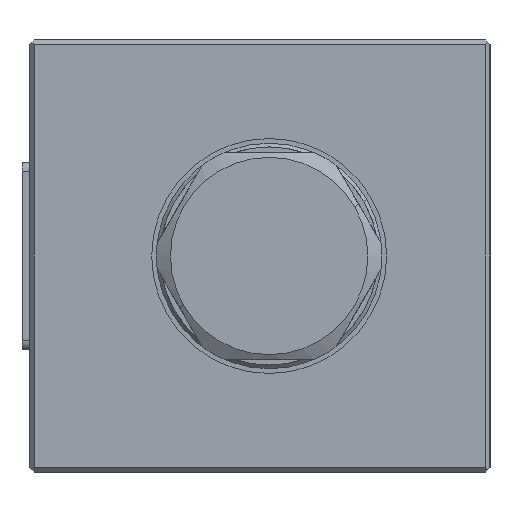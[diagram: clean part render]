
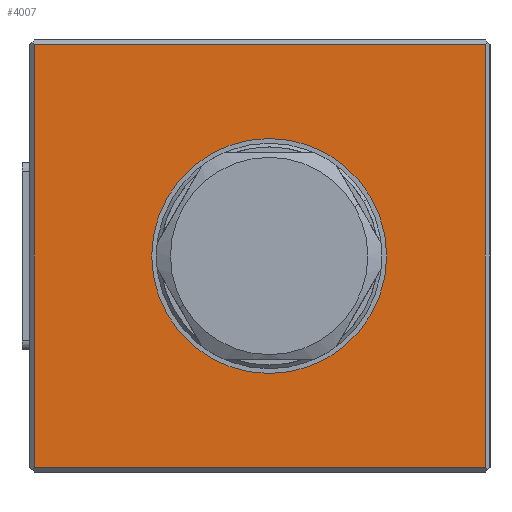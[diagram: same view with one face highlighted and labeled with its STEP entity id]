
A CAD part, left-side view. The second image highlights one B-rep face of the part: STEP entity #4007.
In plain terms, the highlighted planar face has unit normal (-1, 0, 0).
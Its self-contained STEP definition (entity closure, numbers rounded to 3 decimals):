
#978 = LINE ( 'NONE', #19081, #15391 ) ;
#2098 = ORIENTED_EDGE ( 'NONE', *, *, #12225, .T. ) ;
#3069 = CARTESIAN_POINT ( 'NONE',  ( -34., -23.5, -23. ) ) ;
#3128 = CARTESIAN_POINT ( 'NONE',  ( -34., 24.5, -22.5 ) ) ;
#3149 = AXIS2_PLACEMENT_3D ( 'NONE', #7065, #19625, #21395 ) ;
#3657 = CARTESIAN_POINT ( 'NONE',  ( -34., -13., 0. ) ) ;
#3754 = VECTOR ( 'NONE', #21679, 1000. ) ;
#4007 = ADVANCED_FACE ( 'NONE', ( #15624, #19728 ), #6938, .T. ) ;
#4060 = EDGE_CURVE ( 'NONE', #13784, #15410, #7277, .T. ) ;
#4265 = VECTOR ( 'NONE', #7617, 1000. ) ;
#4509 = CARTESIAN_POINT ( 'NONE',  ( -34., -23.5, 22.5 ) ) ;
#5309 = CARTESIAN_POINT ( 'NONE',  ( -34., -0.5, 0. ) ) ;
#5431 = DIRECTION ( 'NONE',  ( 0., 1., 0. ) ) ;
#5857 = CARTESIAN_POINT ( 'NONE',  ( -34., 25., -22.5 ) ) ;
#6275 = CARTESIAN_POINT ( 'NONE',  ( -34., -23.5, -22.5 ) ) ;
#6817 = DIRECTION ( 'NONE',  ( 0., -1., 0. ) ) ;
#6938 = PLANE ( 'NONE',  #18222 ) ;
#7065 = CARTESIAN_POINT ( 'NONE',  ( -34., -0.5, 0. ) ) ;
#7273 = CIRCLE ( 'NONE', #3149, 12.5 ) ;
#7277 = LINE ( 'NONE', #5857, #4265 ) ;
#7456 = CARTESIAN_POINT ( 'NONE',  ( -34., 12., 0. ) ) ;
#7617 = DIRECTION ( 'NONE',  ( 0., -1., 0. ) ) ;
#8844 = ORIENTED_EDGE ( 'NONE', *, *, #14790, .T. ) ;
#9336 = LINE ( 'NONE', #11304, #3754 ) ;
#11304 = CARTESIAN_POINT ( 'NONE',  ( -34., 25., 22.5 ) ) ;
#12041 = DIRECTION ( 'NONE',  ( 0., 0., -1. ) ) ;
#12090 = EDGE_CURVE ( 'NONE', #12893, #13953, #23019, .T. ) ;
#12225 = EDGE_CURVE ( 'NONE', #13953, #12893, #7273, .T. ) ;
#12299 = ORIENTED_EDGE ( 'NONE', *, *, #4060, .T. ) ;
#12553 = ORIENTED_EDGE ( 'NONE', *, *, #20943, .T. ) ;
#12692 = VERTEX_POINT ( 'NONE', #17072 ) ;
#12893 = VERTEX_POINT ( 'NONE', #3657 ) ;
#12898 = AXIS2_PLACEMENT_3D ( 'NONE', #5309, #21533, #5431 ) ;
#13784 = VERTEX_POINT ( 'NONE', #3128 ) ;
#13953 = VERTEX_POINT ( 'NONE', #7456 ) ;
#14442 = VECTOR ( 'NONE', #19035, 1000. ) ;
#14790 = EDGE_CURVE ( 'NONE', #15386, #12692, #9336, .T. ) ;
#15386 = VERTEX_POINT ( 'NONE', #4509 ) ;
#15391 = VECTOR ( 'NONE', #12041, 1000. ) ;
#15410 = VERTEX_POINT ( 'NONE', #6275 ) ;
#15624 = FACE_OUTER_BOUND ( 'NONE', #15984, .T. ) ;
#15984 = EDGE_LOOP ( 'NONE', ( #21961, #12299, #12553, #8844 ) ) ;
#17072 = CARTESIAN_POINT ( 'NONE',  ( -34., 24.5, 22.5 ) ) ;
#17497 = CARTESIAN_POINT ( 'NONE',  ( -34., 25., -23. ) ) ;
#17715 = EDGE_CURVE ( 'NONE', #12692, #13784, #978, .T. ) ;
#17895 = EDGE_LOOP ( 'NONE', ( #2098, #21504 ) ) ;
#18222 = AXIS2_PLACEMENT_3D ( 'NONE', #17497, #21489, #6817 ) ;
#19035 = DIRECTION ( 'NONE',  ( 0., 0., 1. ) ) ;
#19081 = CARTESIAN_POINT ( 'NONE',  ( -34., 24.5, -23. ) ) ;
#19625 = DIRECTION ( 'NONE',  ( 1., 0., 0. ) ) ;
#19728 = FACE_BOUND ( 'NONE', #17895, .T. ) ;
#20943 = EDGE_CURVE ( 'NONE', #15410, #15386, #21157, .T. ) ;
#21157 = LINE ( 'NONE', #3069, #14442 ) ;
#21395 = DIRECTION ( 'NONE',  ( 0., 1., 0. ) ) ;
#21489 = DIRECTION ( 'NONE',  ( -1., 0., 0. ) ) ;
#21504 = ORIENTED_EDGE ( 'NONE', *, *, #12090, .T. ) ;
#21533 = DIRECTION ( 'NONE',  ( 1., 0., 0. ) ) ;
#21679 = DIRECTION ( 'NONE',  ( 0., 1., 0. ) ) ;
#21961 = ORIENTED_EDGE ( 'NONE', *, *, #17715, .T. ) ;
#23019 = CIRCLE ( 'NONE', #12898, 12.5 ) ;
